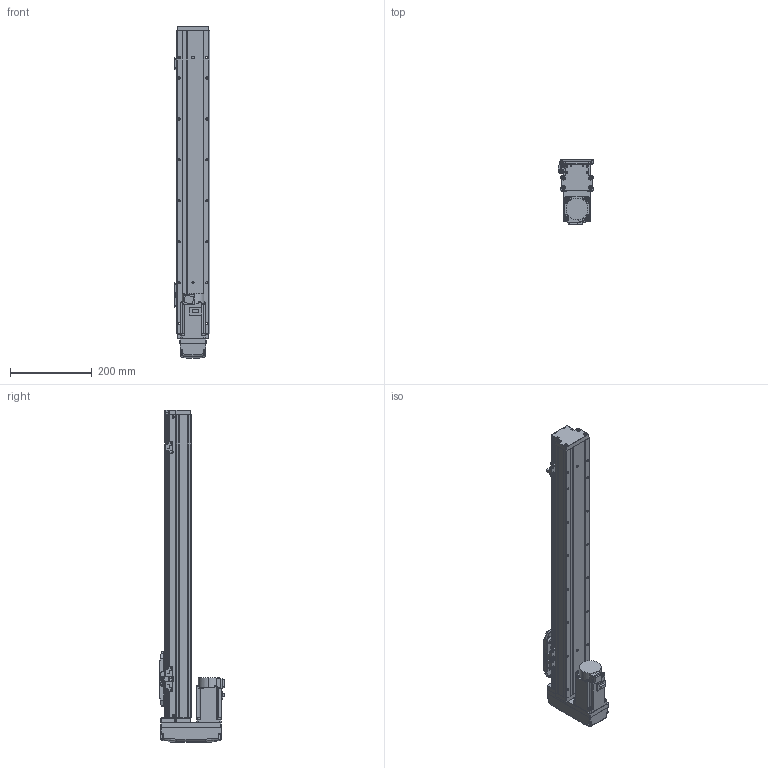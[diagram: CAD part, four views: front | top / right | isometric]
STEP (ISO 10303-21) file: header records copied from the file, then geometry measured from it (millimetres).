
FILE_DESCRIPTION (( 'STEP AP203' ), '1' );
FILE_NAME ('GTH8-550-BM-M20-C4.step', '2022-09-23T01:05:45', ( '微软用户' ), ( '微软中国' ), 'SwSTEP 2.0', 'SolidWorks 2020', '' );
FILE_SCHEMA (( 'CONFIG_CONTROL_DESIGN' ));
Length unit declared in the file: millimetre
Products named in the file (18): GBT96.1-2002 3×0.8; GTH80-022; BTH-M3X5X6; GTH80-001_550; GBT 70.1-M3℅6; hg-kn43j_-s100_; GTH80-003; GBT 70.1-M4×16; CTHA86-015-1_CTHA86-015-2; GTH80-004; GTH80-028; CTHA86-033_M40B; GTH80-006; GTH50-024; GTH8-550-BM-M20-C4; GTH80-013; GTH50-023; GBT 70.3-M3℅6
Assembly tree (57 placements, depth 2):
  GTH8-550-BM-M20-C4
    GTH80-001_550
    GTH80-003
    GTH80-004
    GTH80-006
    GTH80-013
    GBT 70.3-M3℅6  x4
    GTH80-022
    GBT 70.1-M3℅6  x14
    GBT 70.1-M4×16  x8
    GTH80-028  x2
    GTH50-024  x3
    GTH50-023  x3
    GBT96.1-2002 3×0.8  x6
    BTH-M3X5X6  x8
    hg-kn43j_-s100_
    CTHA86-015-1_CTHA86-015-2
    CTHA86-033_M40B
Bounding box: 86.9 x 160.3 x 811 mm (x, y, z)
Volume: 4193602.7 mm3; surface area: 446927.4 mm2
Topology: 59 solids, 59 shells, 2240 faces, 5175 edges, 3171 vertices
Faces by surface type: plane 1187, cylinder 611, cone 260, torus 166, bspline 8, sphere 8
Entity records: 40922 total; most frequent: CARTESIAN_POINT 7193, DIRECTION 6649, ORIENTED_EDGE 6168, EDGE_CURVE 3084, AXIS2_PLACEMENT_3D 2325, LINE 1999, VECTOR 1999, VERTEX_POINT 1946
